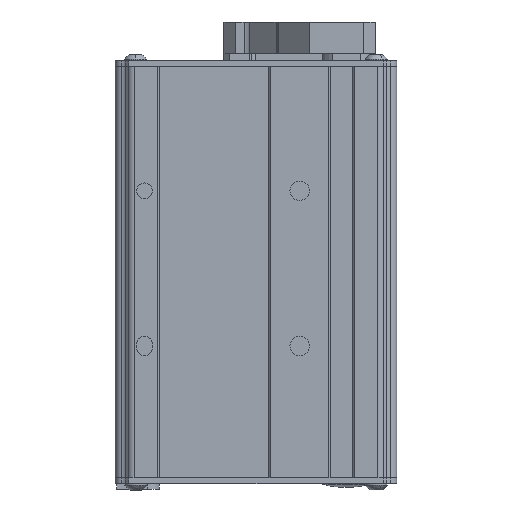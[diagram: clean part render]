
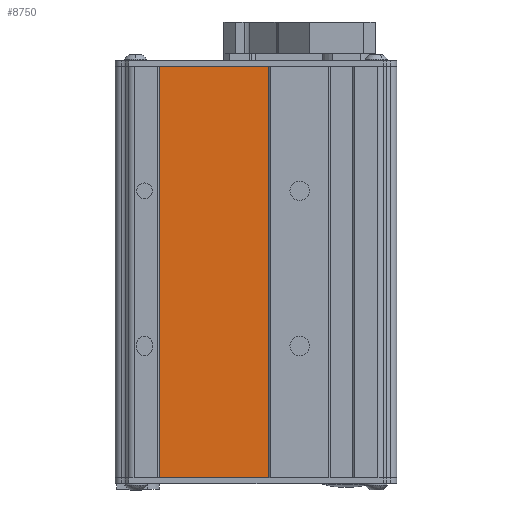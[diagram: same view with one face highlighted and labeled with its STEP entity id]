
A CAD part, front view. The second image highlights one B-rep face of the part: STEP entity #8750.
In plain terms, the highlighted planar face has unit normal (0, -1, 0) as drawn and (0, 0, -1) by its records, which use the part's own axes.
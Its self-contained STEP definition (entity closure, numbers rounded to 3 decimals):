
#211 = CARTESIAN_POINT ( 'NONE',  ( -53., -24.95, 0.5 ) ) ;
#974 = CARTESIAN_POINT ( 'NONE',  ( -53., 3.75, 0.5 ) ) ;
#1046 = VERTEX_POINT ( 'NONE', #16113 ) ;
#2310 = CARTESIAN_POINT ( 'NONE',  ( 53., 3.75, 0.5 ) ) ;
#2417 = DIRECTION ( 'NONE',  ( 0., 1., 0. ) ) ;
#4264 = LINE ( 'NONE', #2310, #8096 ) ;
#4569 = DIRECTION ( 'NONE',  ( -1., 0., 0. ) ) ;
#5090 = CARTESIAN_POINT ( 'NONE',  ( 53., 3.25, 0.5 ) ) ;
#5557 = PLANE ( 'NONE',  #15742 ) ;
#5939 = ORIENTED_EDGE ( 'NONE', *, *, #16502, .F. ) ;
#6477 = EDGE_LOOP ( 'NONE', ( #5939, #11107, #15112, #7589 ) ) ;
#6499 = VECTOR ( 'NONE', #7932, 1000. ) ;
#6935 = LINE ( 'NONE', #14499, #14009 ) ;
#6997 = DIRECTION ( 'NONE',  ( 0., -1., 0. ) ) ;
#7589 = ORIENTED_EDGE ( 'NONE', *, *, #17558, .T. ) ;
#7601 = CARTESIAN_POINT ( 'NONE',  ( 53., -24.95, 0.5 ) ) ;
#7840 = CARTESIAN_POINT ( 'NONE',  ( -53., 3.25, 0.5 ) ) ;
#7932 = DIRECTION ( 'NONE',  ( 1., 0., 0. ) ) ;
#8096 = VECTOR ( 'NONE', #10927, 1000. ) ;
#8463 = VECTOR ( 'NONE', #2417, 1000. ) ;
#8750 = ADVANCED_FACE ( 'NONE', ( #12915 ), #5557, .F. ) ;
#10927 = DIRECTION ( 'NONE',  ( 0., 1., 0. ) ) ;
#11107 = ORIENTED_EDGE ( 'NONE', *, *, #18041, .T. ) ;
#11734 = EDGE_CURVE ( 'NONE', #16659, #16894, #12652, .T. ) ;
#12652 = LINE ( 'NONE', #974, #8463 ) ;
#12915 = FACE_OUTER_BOUND ( 'NONE', #6477, .T. ) ;
#14009 = VECTOR ( 'NONE', #4569, 1000. ) ;
#14029 = LINE ( 'NONE', #5090, #6499 ) ;
#14044 = CARTESIAN_POINT ( 'NONE',  ( 53., 3.75, 0.5 ) ) ;
#14499 = CARTESIAN_POINT ( 'NONE',  ( -53., -24.95, 0.5 ) ) ;
#15112 = ORIENTED_EDGE ( 'NONE', *, *, #11734, .T. ) ;
#15279 = VERTEX_POINT ( 'NONE', #7601 ) ;
#15471 = DIRECTION ( 'NONE',  ( 0., 0., 1. ) ) ;
#15742 = AXIS2_PLACEMENT_3D ( 'NONE', #14044, #15471, #6997 ) ;
#16113 = CARTESIAN_POINT ( 'NONE',  ( 53., 3.25, 0.5 ) ) ;
#16502 = EDGE_CURVE ( 'NONE', #15279, #1046, #4264, .T. ) ;
#16659 = VERTEX_POINT ( 'NONE', #211 ) ;
#16894 = VERTEX_POINT ( 'NONE', #7840 ) ;
#17558 = EDGE_CURVE ( 'NONE', #16894, #1046, #14029, .T. ) ;
#18041 = EDGE_CURVE ( 'NONE', #15279, #16659, #6935, .T. ) ;
